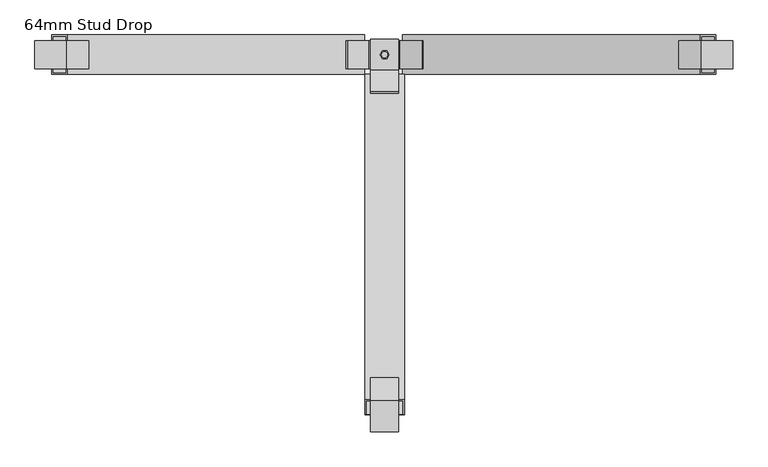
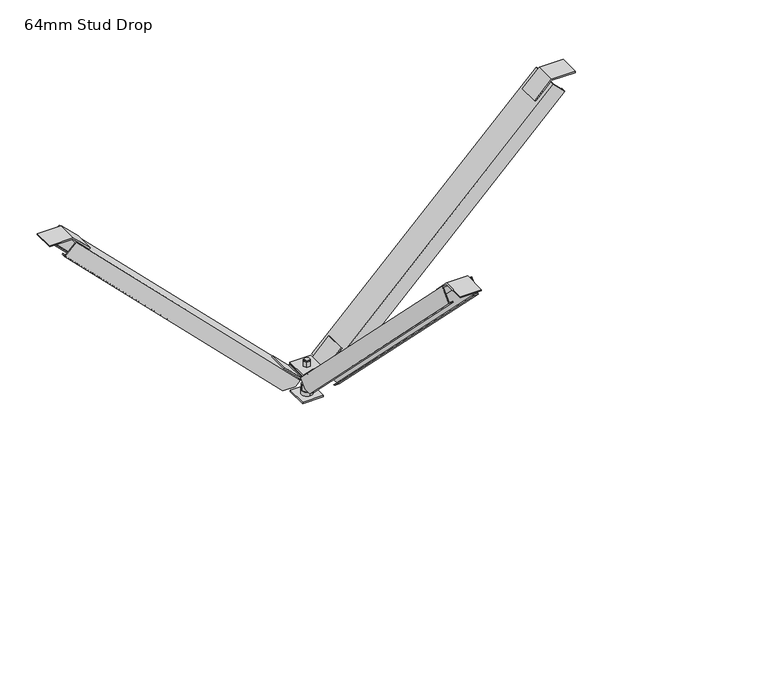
"""IFC4 building model written with IfcOpenShell, lengths in millimetres: beam geometry, Vertibrace 3-way Brace : 64mm Stud Drop."""

from ifc_helpers import new_model, si_unit, frame, origin, origin_with_axes, place, context, project, spatial, polyline, circle_curve, outline, extrude, faceted_brep, source, transform, mapped, element, save
from ifc_brep_helpers import plane_surface, cylinder_surface, advanced_brep


def beam_64mm_stud_drop_7ac056a3(model_context):
    return source(origin(), model_context, "Body", "SolidModel", [
        extrude(outline(polyline([(-560.535654, 597.0013294), (-610.5201232, 597.0013294), (-610.5201232, 600.0), (-559.293564, 600.0), (-523.0709166, 563.7773526), (-525.1912969, 561.6569723), (-560.535654, 597.0013294)])), frame((-22.5, 0.0, 0.0), z_axis=(1.0, 0.0, 0.0), x_axis=(0.0, 1.0, 0.0)), (0.0, 0.0, 1.0), 45.0),
        extrude(outline(polyline([(547.0013294, 513.8434194), (547.0013294, 563.8278886), (550.0, 563.8278886), (550.0, 512.6013294), (513.7773526, 476.378682), (511.6569723, 478.4990623), (547.0013294, 513.8434194)])), frame((0.0, -22.5, 0.0), z_axis=(0.0, 1.0, 0.0), x_axis=(0.0, 0.0, 1.0)), (0.0, 0.0, 1.0), 45.0),
        extrude(outline(polyline([(547.0013294, -516.535654), (511.6569723, -481.1912969), (513.7773526, -479.0709166), (550.0, -515.293564), (550.0, -566.5201232), (547.0013294, -566.5201232), (547.0013294, -516.535654)])), frame((0.0, -22.5, 0.0), z_axis=(0.0, 1.0, 0.0), x_axis=(0.0, 0.0, 1.0)), (0.0, 0.0, 1.0), 45.0),
        extrude(outline(polyline([(-24.9922346, 65.6986706), (24.9922346, 65.6986706), (24.9922346, 62.7), (-26.2343246, 62.7), (-62.456972, 98.9226474), (-60.3365917, 101.0430277), (-24.9922346, 65.6986706)])), frame((-22.5, 0.0, 0.0), z_axis=(1.0, 0.0, 0.0), x_axis=(0.0, 1.0, 0.0)), (0.0, 0.0, 1.0), 45.0),
        extrude(outline(polyline([(62.6986706, 24.9922346), (62.6986706, -24.9922346), (59.7, -24.9922346), (59.7, 26.2343246), (95.9226474, 62.456972), (98.0430277, 60.3365917), (62.6986706, 24.9922346)])), frame((0.0, -22.5, 0.0), z_axis=(0.0, 1.0, 0.0), x_axis=(0.0, 0.0, 1.0)), (0.0, 0.0, 1.0), 45.0),
        extrude(outline(polyline([(59.6986706, -24.9922346), (95.0430277, -60.3365917), (92.9226474, -62.456972), (56.7, -26.2343246), (56.7, 24.9922346), (59.6986706, 24.9922346), (59.6986706, -24.9922346)])), frame((0.0, -22.5, 0.0), z_axis=(0.0, 1.0, 0.0), x_axis=(0.0, 0.0, 1.0)), (0.0, 0.0, 1.0), 45.0),
        extrude(outline(polyline([(22.5, 22.5), (22.5, -22.5), (-22.5, -22.5), (-22.5, 22.5), (22.5, 22.5)])), origin_with_axes(), (0.0, 0.0, 1.0), 3.0),
        advanced_brep(
        [(-5.0, 0.0, -10.0), (5.0, 0.0, -10.0), (-5.0, 0.0, 80.0), (5.0, 0.0, 80.0), (5.0, 0.0, 3.0), (-5.0, 0.0, 3.0), (-5.0, 0.0, 77.4), (5.0, 0.0, 77.4), (-5.0, 0.0, 25.0), (5.0, 0.0, 25.0), (5.0, 0.0, 50.0), (-5.0, 0.0, 50.0), (5.0, 0.0, 65.7), (-5.0, 0.0, 65.7), (-5.0, 0.0, 56.7), (5.0, 0.0, 56.7), (-10.5, 0.0, 25.0), (10.5, 0.0, 25.0), (-10.5, 0.0, 13.0), (10.5, 0.0, 13.0), (0.0, -12.0, 13.0), (0.0, 12.0, 13.0), (3.75, 6.4951905, 77.4), (-3.75, 6.4951905, 77.4), (-7.5, 0.0, 77.4), (-3.75, -6.4951905, 77.4), (3.75, -6.4951905, 77.4), (7.5, 0.0, 77.4), (3.75, 6.4951905, 65.7), (7.5, 0.0, 65.7), (3.75, -6.4951905, 65.7), (-3.75, -6.4951905, 65.7), (-7.5, 0.0, 65.7), (-3.75, 6.4951905, 65.7), (-10.9696551, 0.0, 56.7), (-5.4848276, -9.5, 56.7), (5.4848276, -9.5, 56.7), (10.9696551, 0.0, 56.7), (5.4848276, 9.5, 56.7), (-5.4848276, 9.5, 56.7), (-10.9696551, 0.0, 50.0), (-5.4848276, 9.5, 50.0), (5.4848276, 9.5, 50.0), (10.9696551, 0.0, 50.0), (5.4848276, -9.5, 50.0), (-5.4848276, -9.5, 50.0), (0.0, -12.0, 3.0), (0.0, 12.0, 3.0)],
        [
            (0, 1, circle_curve(frame((0.0, 0.0, -10.0), z_axis=(0.0, 0.0, -1.0), x_axis=(1.0, 0.0, 0.0)), 5.0)),
            (1, 0, circle_curve(frame((0.0, 0.0, -10.0), z_axis=(0.0, 0.0, -1.0), x_axis=(1.0, 0.0, 0.0)), 5.0)),
            (2, 3, circle_curve(frame((0.0, 0.0, 80.0), z_axis=(0.0, 0.0, 1.0), x_axis=(1.0, 0.0, 0.0)), 5.0)),
            (3, 2, circle_curve(frame((0.0, 0.0, 80.0), z_axis=(0.0, 0.0, 1.0), x_axis=(1.0, 0.0, 0.0)), 5.0)),
            (1, 4),
            (4, 5, circle_curve(frame((0.0, 0.0, 3.0), z_axis=(0.0, 0.0, -1.0), x_axis=(1.0, 0.0, 0.0)), 5.0)),
            (5, 0),
            (2, 6),
            (6, 7, circle_curve(frame((0.0, 0.0, 77.4), z_axis=(0.0, 0.0, 1.0), x_axis=(1.0, 0.0, 0.0)), 5.0)),
            (7, 3),
            (8, 9, circle_curve(frame((0.0, 0.0, 25.0), z_axis=(0.0, 0.0, 1.0), x_axis=(1.0, 0.0, 0.0)), 5.0)),
            (9, 10),
            (10, 11, circle_curve(frame((0.0, 0.0, 50.0), z_axis=(0.0, 0.0, -1.0), x_axis=(1.0, 0.0, 0.0)), 5.0)),
            (11, 8),
            (12, 13, circle_curve(frame((0.0, 0.0, 65.7), z_axis=(0.0, 0.0, -1.0), x_axis=(1.0, 0.0, 0.0)), 5.0)),
            (13, 14),
            (14, 15, circle_curve(frame((0.0, 0.0, 56.7), z_axis=(0.0, 0.0, 1.0), x_axis=(1.0, 0.0, 0.0)), 5.0)),
            (15, 12),
            (5, 4, circle_curve(frame((0.0, 0.0, 3.0), z_axis=(0.0, 0.0, -1.0), x_axis=(1.0, 0.0, 0.0)), 5.0)),
            (7, 6, circle_curve(frame((0.0, 0.0, 77.4), z_axis=(0.0, 0.0, 1.0), x_axis=(1.0, 0.0, 0.0)), 5.0)),
            (9, 8, circle_curve(frame((0.0, 0.0, 25.0), z_axis=(0.0, 0.0, 1.0), x_axis=(1.0, 0.0, 0.0)), 5.0)),
            (11, 10, circle_curve(frame((0.0, 0.0, 50.0), z_axis=(0.0, 0.0, -1.0), x_axis=(1.0, 0.0, 0.0)), 5.0)),
            (13, 12, circle_curve(frame((0.0, 0.0, 65.7), z_axis=(0.0, 0.0, -1.0), x_axis=(1.0, 0.0, 0.0)), 5.0)),
            (15, 14, circle_curve(frame((0.0, 0.0, 56.7), z_axis=(0.0, 0.0, 1.0), x_axis=(1.0, 0.0, 0.0)), 5.0)),
            (16, 17, circle_curve(frame((0.0, 0.0, 25.0), z_axis=(0.0, 0.0, 1.0), x_axis=(1.0, 0.0, 0.0)), 10.5)),
            (17, 16, circle_curve(frame((0.0, 0.0, 25.0), z_axis=(0.0, 0.0, 1.0), x_axis=(1.0, 0.0, 0.0)), 10.5)),
            (16, 18),
            (18, 19, circle_curve(frame((0.0, 0.0, 13.0), z_axis=(0.0, 0.0, 1.0), x_axis=(1.0, 0.0, 0.0)), 10.5)),
            (19, 17),
            (19, 18, circle_curve(frame((0.0, 0.0, 13.0), z_axis=(0.0, 0.0, 1.0), x_axis=(1.0, 0.0, 0.0)), 10.5)),
            (20, 21, circle_curve(frame((0.0, 0.0, 13.0), z_axis=(0.0, 0.0, 1.0), x_axis=(0.0, 1.0, 0.0)), 12.0)),
            (21, 20, circle_curve(frame((0.0, 0.0, 13.0), z_axis=(0.0, 0.0, 1.0), x_axis=(0.0, 1.0, 0.0)), 12.0)),
            (22, 23),
            (23, 24),
            (24, 25),
            (25, 26),
            (26, 27),
            (27, 22),
            (28, 29),
            (29, 30),
            (30, 31),
            (31, 32),
            (32, 33),
            (33, 28),
            (22, 28),
            (33, 23),
            (32, 24),
            (31, 25),
            (30, 26),
            (29, 27),
            (34, 35),
            (35, 36),
            (36, 37),
            (37, 38),
            (38, 39),
            (39, 34),
            (40, 41),
            (41, 42),
            (42, 43),
            (43, 44),
            (44, 45),
            (45, 40),
            (34, 40),
            (45, 35),
            (44, 36),
            (43, 37),
            (42, 38),
            (41, 39),
            (46, 47, circle_curve(frame((0.0, 0.0, 3.0), z_axis=(0.0, 0.0, -1.0), x_axis=(0.0, 1.0, 0.0)), 12.0)),
            (47, 46, circle_curve(frame((0.0, 0.0, 3.0), z_axis=(0.0, 0.0, -1.0), x_axis=(0.0, 1.0, 0.0)), 12.0)),
            (47, 21),
            (20, 46),
        ],
        [
            plane_surface(frame((5.0, 0.0, -10.0), z_axis=(0.0, 0.0, -1.0), x_axis=(0.0, -1.0, 0.0))),
            plane_surface(frame((5.0, 0.0, 80.0), z_axis=(0.0, 0.0, 1.0), x_axis=(0.0, 1.0, 0.0))),
            cylinder_surface(frame((0.0, 0.0, -10.0), z_axis=(0.0, 0.0, 1.0), x_axis=(1.0, 0.0, 0.0)), 5.0),
            plane_surface(frame((10.5, 0.0, 25.0), z_axis=(0.0, 0.0, 1.0), x_axis=(0.0, 1.0, 0.0))),
            cylinder_surface(frame((0.0, 0.0, 13.0), z_axis=(0.0, 0.0, 1.0), x_axis=(1.0, 0.0, 0.0)), 10.5),
            plane_surface(frame((0.0, 12.0, 13.0), z_axis=(0.0, 0.0, 1.0), x_axis=(-1.0, 0.0, 0.0))),
            plane_surface(frame((3.75, 6.4951905, 77.4), z_axis=(0.0, 0.0, 1.0), x_axis=(-1.0, 0.0, 0.0))),
            plane_surface(frame((3.75, 6.4951905, 65.7), z_axis=(0.0, 0.0, -1.0), x_axis=(1.0, 0.0, 0.0))),
            plane_surface(frame((3.75, 6.4951905, 77.4), z_axis=(0.0, 1.0, 0.0), x_axis=(0.0, 0.0, -1.0))),
            plane_surface(frame((-3.75, 6.4951905, 77.4), z_axis=(-0.866025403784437, 0.5000000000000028, 0.0), x_axis=(0.0, 0.0, -1.0))),
            plane_surface(frame((-7.5, 0.0, 77.4), z_axis=(-0.8660254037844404, -0.4999999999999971, 0.0), x_axis=(0.0, 0.0, -1.0))),
            plane_surface(frame((-3.75, -6.4951905, 77.4), z_axis=(0.0, -1.0, 0.0), x_axis=(0.0, 0.0, -1.0))),
            plane_surface(frame((3.75, -6.4951905, 77.4), z_axis=(0.8660254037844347, -0.500000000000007, 0.0), x_axis=(0.0, 0.0, -1.0))),
            plane_surface(frame((7.5, 0.0, 77.4), z_axis=(0.8660254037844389, 0.49999999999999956, 0.0), x_axis=(0.0, 0.0, -1.0))),
            plane_surface(frame((-10.9696551, 0.0, 56.7), z_axis=(0.0, 0.0, 1.0), x_axis=(0.49999999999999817, -0.8660254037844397, 0.0))),
            plane_surface(frame((-10.9696551, 0.0, 50.0), z_axis=(0.0, 0.0, -1.0), x_axis=(-0.49999999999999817, 0.8660254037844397, 0.0))),
            plane_surface(frame((-10.9696551, 0.0, 56.7), z_axis=(-0.8660254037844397, -0.49999999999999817, 0.0), x_axis=(0.0, 0.0, -1.0))),
            plane_surface(frame((-5.4848276, -9.5, 56.7), z_axis=(0.0, -1.0, 0.0), x_axis=(0.0, 0.0, -1.0))),
            plane_surface(frame((5.4848276, -9.5, 56.7), z_axis=(0.8660254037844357, -0.5000000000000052, 0.0), x_axis=(0.0, 0.0, -1.0))),
            plane_surface(frame((10.9696551, 0.0, 56.7), z_axis=(0.8660254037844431, 0.49999999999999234, 0.0), x_axis=(0.0, 0.0, -1.0))),
            plane_surface(frame((5.4848276, 9.5, 56.7), z_axis=(0.0, 1.0, 0.0), x_axis=(0.0, 0.0, -1.0))),
            plane_surface(frame((-5.4848276, 9.5, 56.7), z_axis=(-0.866025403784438, 0.5000000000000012, 0.0), x_axis=(0.0, 0.0, -1.0))),
            plane_surface(frame((0.0, 12.0, 3.0), z_axis=(0.0, 0.0, -1.0), x_axis=(1.0, 0.0, 0.0))),
            cylinder_surface(frame((0.0, 0.0, 3.0), z_axis=(0.0, 0.0, 1.0), x_axis=(0.0, 1.0, 0.0)), 12.0),
        ],
        [
            (0, [[1, 2]]),
            (1, [[3, 4]]),
            (2, [[-2, 5, 6, 7]]),
            (2, [[-3, 8, 9, 10]]),
            (2, [[11, 12, 13, 14]]),
            (2, [[15, 16, 17, 18]]),
            (2, [[-1, -7, 19, -5]]),
            (2, [[-4, -10, 20, -8]]),
            (2, [[21, -14, 22, -12]]),
            (2, [[23, -18, 24, -16]]),
            (3, [[25, 26], [-11, -21]]),
            (4, [[-25, 27, 28, 29]]),
            (4, [[-26, -29, 30, -27]]),
            (5, [[31, 32], [-28, -30]]),
            (6, [[33, 34, 35, 36, 37, 38], [-9, -20]]),
            (7, [[39, 40, 41, 42, 43, 44], [-15, -23]]),
            (8, [[-33, 45, -44, 46]]),
            (9, [[-34, -46, -43, 47]]),
            (10, [[-35, -47, -42, 48]]),
            (11, [[-36, -48, -41, 49]]),
            (12, [[-37, -49, -40, 50]]),
            (13, [[-38, -50, -39, -45]]),
            (14, [[51, 52, 53, 54, 55, 56], [-17, -24]]),
            (15, [[57, 58, 59, 60, 61, 62], [-13, -22]]),
            (16, [[-51, 63, -62, 64]]),
            (17, [[-52, -64, -61, 65]]),
            (18, [[-53, -65, -60, 66]]),
            (19, [[-54, -66, -59, 67]]),
            (20, [[-55, -67, -58, 68]]),
            (21, [[-56, -68, -57, -63]]),
            (22, [[69, 70], [-6, -19]]),
            (23, [[-70, 71, -31, 72]]),
            (23, [[-69, -72, -32, -71]]),
        ],
    ),
        faceted_brep([(30.0, -48.4656754, 52.0), (32.0, -48.4656754, 52.0), (32.0, -65.0317993, 52.0), (22.0, -65.0317993, 52.0), (22.0, -62.2033722, 52.0), (30.0, -62.2033722, 52.0), (-32.0, -48.4656754, 52.0), (-30.0, -48.4656754, 52.0), (-30.0, -62.2033722, 52.0), (-22.0, -62.2033722, 52.0), (-22.0, -65.0317993, 52.0), (-32.0, -65.0317993, 52.0), (30.0, -33.4142136, 67.0514618), (-30.0, -33.4142136, 67.0514618), (-32.0, -32.0, 68.4656754), (32.0, -32.0, 68.4656754), (32.0, -558.5343246, 595.0), (-32.0, -558.5343246, 595.0), (-32.0, -583.283062, 570.2512627), (-22.0, -583.283062, 570.2512627), (-22.0, -581.8688484, 571.6654762), (-30.0, -581.8688484, 571.6654762), (-30.0, -559.9485382, 593.5857864), (30.0, -559.9485382, 593.5857864), (30.0, -581.8688484, 571.6654762), (22.0, -581.8688484, 571.6654762), (22.0, -583.283062, 570.2512627), (32.0, -583.283062, 570.2512627)], [[[0, 1, 2, 3, 4, 5]], [[6, 7, 8, 9, 10, 11]], [[12, 13, 7, 6, 14, 15, 1, 0]], [[16, 17, 18, 19, 20, 21, 22, 23, 24, 25, 26, 27]], [[16, 27, 2, 1, 15]], [[27, 26, 3, 2]], [[26, 25, 4, 3]], [[25, 24, 5, 4]], [[24, 23, 12, 0, 5]], [[13, 12, 23, 22]], [[22, 21, 8, 7, 13]], [[21, 20, 9, 8]], [[20, 19, 10, 9]], [[19, 18, 11, 10]], [[18, 17, 14, 6, 11]], [[15, 14, 17, 16]]]),
        faceted_brep([(39.9343246, 30.0, 52.0), (39.9343246, 32.0, 52.0), (68.0317993, 32.0, 52.0), (68.0317993, 22.0, 52.0), (65.2033722, 22.0, 52.0), (65.2033722, 30.0, 52.0), (39.9343246, -32.0, 52.0), (39.9343246, -30.0, 52.0), (65.2033722, -30.0, 52.0), (65.2033722, -22.0, 52.0), (68.0317993, -22.0, 52.0), (68.0317993, -32.0, 52.0), (30.6485382, 30.0, 61.2857864), (30.6485382, -30.0, 61.2857864), (29.2343246, -32.0, 62.7), (29.2343246, 32.0, 62.7), (511.5343246, 32.0, 545.0), (511.5343246, -32.0, 545.0), (536.283062, -32.0, 520.2512627), (536.283062, -22.0, 520.2512627), (534.8688484, -22.0, 521.6654762), (534.8688484, -30.0, 521.6654762), (512.9485382, -30.0, 543.5857864), (512.9485382, 30.0, 543.5857864), (534.8688484, 30.0, 521.6654762), (534.8688484, 22.0, 521.6654762), (536.283062, 22.0, 520.2512627), (536.283062, 32.0, 520.2512627)], [[[0, 1, 2, 3, 4, 5]], [[6, 7, 8, 9, 10, 11]], [[12, 13, 7, 6, 14, 15, 1, 0]], [[16, 17, 18, 19, 20, 21, 22, 23, 24, 25, 26, 27]], [[16, 27, 2, 1, 15]], [[27, 26, 3, 2]], [[26, 25, 4, 3]], [[25, 24, 5, 4]], [[24, 23, 12, 0, 5]], [[13, 12, 23, 22]], [[22, 21, 8, 7, 13]], [[21, 20, 9, 8]], [[20, 19, 10, 9]], [[19, 18, 11, 10]], [[18, 17, 14, 6, 11]], [[15, 14, 17, 16]]]),
        faceted_brep([(-33.9485382, -30.0, 61.5857864), (-33.9485382, 30.0, 61.5857864), (-43.5343246, 30.0, 52.0), (-43.5343246, 32.0, 52.0), (-32.5343246, 32.0, 63.0), (-32.5343246, -32.0, 63.0), (-43.5343246, -32.0, 52.0), (-43.5343246, -30.0, 52.0), (-514.5343246, -32.0, 545.0), (-514.5343246, 32.0, 545.0), (-539.283062, 32.0, 520.2512627), (-539.283062, 22.0, 520.2512627), (-537.8688484, 22.0, 521.6654762), (-537.8688484, 30.0, 521.6654762), (-515.9485382, 30.0, 543.5857864), (-515.9485382, -30.0, 543.5857864), (-537.8688484, -30.0, 521.6654762), (-537.8688484, -22.0, 521.6654762), (-539.283062, -22.0, 520.2512627), (-539.283062, -32.0, 520.2512627), (-71.0317993, -32.0, 52.0), (-71.0317993, -22.0, 52.0), (-71.0317993, 32.0, 52.0), (-68.2033722, 30.0, 52.0), (-68.2033722, 22.0, 52.0), (-71.0317993, 22.0, 52.0), (-68.2033722, -22.0, 52.0), (-68.2033722, -30.0, 52.0)], [[[0, 1, 2, 3, 4, 5, 6, 7]], [[8, 9, 10, 11, 12, 13, 14, 15, 16, 17, 18, 19]], [[8, 19, 20, 6, 5]], [[19, 18, 21, 20]], [[10, 9, 4, 3, 22]], [[5, 4, 9, 8]], [[3, 2, 23, 24, 25, 22]], [[7, 6, 20, 21, 26, 27]], [[18, 17, 26, 21]], [[17, 16, 27, 26]], [[16, 15, 0, 7, 27]], [[1, 0, 15, 14]], [[14, 13, 23, 2, 1]], [[13, 12, 24, 23]], [[12, 11, 25, 24]], [[11, 10, 22, 25]]]),
    ])


if __name__ == "__main__":
    model = new_model("IFC4")
    model_context = context("Model", 3, world=origin())
    ifc_project = project(units=[si_unit("LENGTHUNIT", "METRE", prefix="MILLI")], contexts=[model_context])
    site = spatial("IfcSite", under=ifc_project)
    building = spatial("IfcBuilding", under=site)
    placement = place(None, origin())
    beam_64mm_stud_drop_shape = beam_64mm_stud_drop_7ac056a3(model_context)
    element("IfcBeam", 1, ObjectType="Vertibrace 3-way Brace : 64mm Stud Drop", at=placement, inside=building, context=model_context, shape_type="MappedRepresentation", body=[
        mapped(beam_64mm_stud_drop_shape, transform((0.0, 0.0, 0.0), x_axis=(1.0, 0.0, 0.0), y_axis=(0.0, 1.0, 0.0), z_axis=(0.0, 0.0, 1.0))),
    ])
    save(model, "model.ifc")
